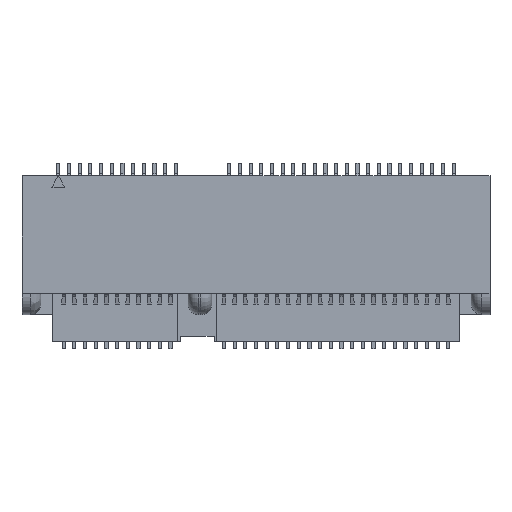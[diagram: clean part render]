
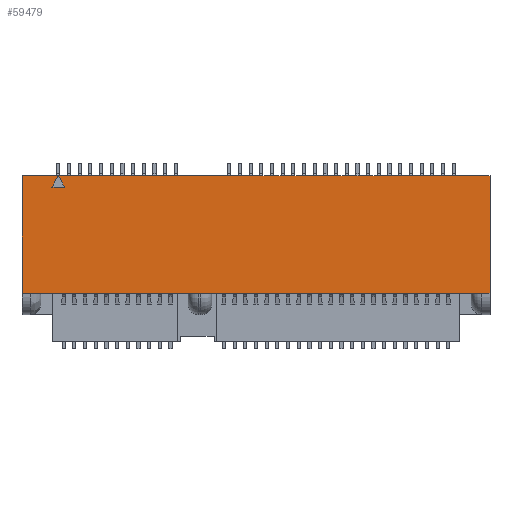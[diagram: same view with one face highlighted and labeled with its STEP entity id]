
A CAD part, top view. The second image highlights one B-rep face of the part: STEP entity #59479.
In plain terms, the highlighted planar face has unit normal (0, 0, 1).
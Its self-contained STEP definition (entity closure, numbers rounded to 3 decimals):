
#772 = EDGE_CURVE ( 'NONE', #52759, #35204, #39969, .T. ) ;
#2092 = CARTESIAN_POINT ( 'NONE',  ( 10.95, -1.75, 3.77 ) ) ;
#2322 = VECTOR ( 'NONE', #23748, 1000. ) ;
#2823 = CARTESIAN_POINT ( 'NONE',  ( -10.95, -4., 3.77 ) ) ;
#3662 = ORIENTED_EDGE ( 'NONE', *, *, #48530, .T. ) ;
#3775 = LINE ( 'NONE', #16760, #8588 ) ;
#3982 = VECTOR ( 'NONE', #69064, 1000. ) ;
#4344 = CARTESIAN_POINT ( 'NONE',  ( -10.95, -1.75, 3.77 ) ) ;
#4442 = EDGE_CURVE ( 'NONE', #40725, #60250, #26415, .T. ) ;
#5338 = VECTOR ( 'NONE', #15814, 1000. ) ;
#6121 = EDGE_CURVE ( 'NONE', #35030, #40725, #55522, .T. ) ;
#6462 = LINE ( 'NONE', #37810, #33978 ) ;
#6514 = VECTOR ( 'NONE', #22098, 1000. ) ;
#6518 = LINE ( 'NONE', #30448, #52089 ) ;
#8588 = VECTOR ( 'NONE', #51985, 1000. ) ;
#8789 = LINE ( 'NONE', #15845, #3982 ) ;
#9069 = CARTESIAN_POINT ( 'NONE',  ( 10.575, -1.75, 3.77 ) ) ;
#9183 = EDGE_CURVE ( 'NONE', #13998, #39273, #8789, .T. ) ;
#10214 = CARTESIAN_POINT ( 'NONE',  ( -10.95, 3.749, 3.77 ) ) ;
#10961 = EDGE_CURVE ( 'NONE', #52759, #12591, #15775, .T. ) ;
#12591 = VERTEX_POINT ( 'NONE', #4344 ) ;
#13998 = VERTEX_POINT ( 'NONE', #37142 ) ;
#14827 = DIRECTION ( 'NONE',  ( 1., 0., 0. ) ) ;
#14975 = VERTEX_POINT ( 'NONE', #18194 ) ;
#15775 = LINE ( 'NONE', #2823, #66678 ) ;
#15814 = DIRECTION ( 'NONE',  ( 0.5, -0.866, 0. ) ) ;
#15845 = CARTESIAN_POINT ( 'NONE',  ( -10.95, 3.22, 3.77 ) ) ;
#16382 = LINE ( 'NONE', #33232, #20931 ) ;
#16760 = CARTESIAN_POINT ( 'NONE',  ( -9.55, 3.22, 3.77 ) ) ;
#18194 = CARTESIAN_POINT ( 'NONE',  ( -9.25, 3.74, 3.77 ) ) ;
#18624 = LINE ( 'NONE', #24514, #2322 ) ;
#20931 = VECTOR ( 'NONE', #14827, 1000. ) ;
#22098 = DIRECTION ( 'NONE',  ( 1., 0., 0. ) ) ;
#22336 = VECTOR ( 'NONE', #41129, 1000. ) ;
#23666 = ORIENTED_EDGE ( 'NONE', *, *, #772, .F. ) ;
#23748 = DIRECTION ( 'NONE',  ( 0., -1., 0. ) ) ;
#24045 = EDGE_CURVE ( 'NONE', #35030, #45846, #6518, .T. ) ;
#24514 = CARTESIAN_POINT ( 'NONE',  ( 10.95, -4., 3.77 ) ) ;
#25942 = EDGE_CURVE ( 'NONE', #39273, #14975, #3775, .T. ) ;
#26415 = LINE ( 'NONE', #74180, #6514 ) ;
#27007 = FACE_BOUND ( 'NONE', #42450, .T. ) ;
#27147 = LINE ( 'NONE', #63906, #5338 ) ;
#27317 = CARTESIAN_POINT ( 'NONE',  ( -10.95, 3.749, 3.77 ) ) ;
#27368 = EDGE_CURVE ( 'NONE', #66820, #45846, #6462, .T. ) ;
#29864 = ORIENTED_EDGE ( 'NONE', *, *, #4442, .T. ) ;
#30448 = CARTESIAN_POINT ( 'NONE',  ( -3.175, -1.75, 3.77 ) ) ;
#32593 = CARTESIAN_POINT ( 'NONE',  ( -10.575, -1.75, 3.77 ) ) ;
#33232 = CARTESIAN_POINT ( 'NONE',  ( -10.95, -1.75, 3.77 ) ) ;
#33978 = VECTOR ( 'NONE', #73418, 1000. ) ;
#34735 = ORIENTED_EDGE ( 'NONE', *, *, #27368, .T. ) ;
#34805 = DIRECTION ( 'NONE',  ( 0., 0., 1. ) ) ;
#35030 = VERTEX_POINT ( 'NONE', #47708 ) ;
#35204 = VERTEX_POINT ( 'NONE', #57030 ) ;
#37138 = DIRECTION ( 'NONE',  ( 1., 0., 0. ) ) ;
#37142 = CARTESIAN_POINT ( 'NONE',  ( -8.95, 3.22, 3.77 ) ) ;
#37810 = CARTESIAN_POINT ( 'NONE',  ( -10.95, -1.75, 3.77 ) ) ;
#38351 = EDGE_CURVE ( 'NONE', #12591, #66820, #16382, .T. ) ;
#39273 = VERTEX_POINT ( 'NONE', #51916 ) ;
#39699 = ORIENTED_EDGE ( 'NONE', *, *, #10961, .T. ) ;
#39969 = LINE ( 'NONE', #10214, #22336 ) ;
#40725 = VERTEX_POINT ( 'NONE', #9069 ) ;
#41129 = DIRECTION ( 'NONE',  ( 1., 0., 0. ) ) ;
#41395 = EDGE_CURVE ( 'NONE', #35204, #60250, #18624, .T. ) ;
#42450 = EDGE_LOOP ( 'NONE', ( #58151, #61664, #3662 ) ) ;
#44998 = DIRECTION ( 'NONE',  ( 0., -1., 0. ) ) ;
#45846 = VERTEX_POINT ( 'NONE', #65278 ) ;
#46183 = FACE_OUTER_BOUND ( 'NONE', #75414, .T. ) ;
#46572 = PLANE ( 'NONE',  #66422 ) ;
#47206 = ORIENTED_EDGE ( 'NONE', *, *, #38351, .T. ) ;
#47708 = CARTESIAN_POINT ( 'NONE',  ( -2.575, -1.75, 3.77 ) ) ;
#48530 = EDGE_CURVE ( 'NONE', #14975, #13998, #27147, .T. ) ;
#48894 = ORIENTED_EDGE ( 'NONE', *, *, #24045, .F. ) ;
#50667 = VECTOR ( 'NONE', #37138, 1000. ) ;
#51916 = CARTESIAN_POINT ( 'NONE',  ( -9.55, 3.22, 3.77 ) ) ;
#51985 = DIRECTION ( 'NONE',  ( 0.5, 0.866, 0. ) ) ;
#52089 = VECTOR ( 'NONE', #53156, 1000. ) ;
#52759 = VERTEX_POINT ( 'NONE', #27317 ) ;
#53156 = DIRECTION ( 'NONE',  ( -1., 0., 0. ) ) ;
#55522 = LINE ( 'NONE', #72744, #50667 ) ;
#56648 = ORIENTED_EDGE ( 'NONE', *, *, #6121, .T. ) ;
#57030 = CARTESIAN_POINT ( 'NONE',  ( 10.95, 3.749, 3.77 ) ) ;
#58151 = ORIENTED_EDGE ( 'NONE', *, *, #9183, .T. ) ;
#59479 = ADVANCED_FACE ( 'NONE', ( #27007, #46183 ), #46572, .T. ) ;
#60250 = VERTEX_POINT ( 'NONE', #2092 ) ;
#61664 = ORIENTED_EDGE ( 'NONE', *, *, #25942, .T. ) ;
#63479 = DIRECTION ( 'NONE',  ( 0., -1., 0. ) ) ;
#63906 = CARTESIAN_POINT ( 'NONE',  ( -9.25, 3.74, 3.77 ) ) ;
#65278 = CARTESIAN_POINT ( 'NONE',  ( -2.675, -1.75, 3.77 ) ) ;
#66422 = AXIS2_PLACEMENT_3D ( 'NONE', #75930, #34805, #44998 ) ;
#66678 = VECTOR ( 'NONE', #63479, 1000. ) ;
#66820 = VERTEX_POINT ( 'NONE', #32593 ) ;
#67439 = ORIENTED_EDGE ( 'NONE', *, *, #41395, .F. ) ;
#69064 = DIRECTION ( 'NONE',  ( -1., 0., 0. ) ) ;
#72744 = CARTESIAN_POINT ( 'NONE',  ( -10.95, -1.75, 3.77 ) ) ;
#73418 = DIRECTION ( 'NONE',  ( 1., 0., 0. ) ) ;
#74180 = CARTESIAN_POINT ( 'NONE',  ( -10.95, -1.75, 3.77 ) ) ;
#75414 = EDGE_LOOP ( 'NONE', ( #67439, #23666, #39699, #47206, #34735, #48894, #56648, #29864 ) ) ;
#75930 = CARTESIAN_POINT ( 'NONE',  ( -10.95, 3.75, 3.77 ) ) ;
